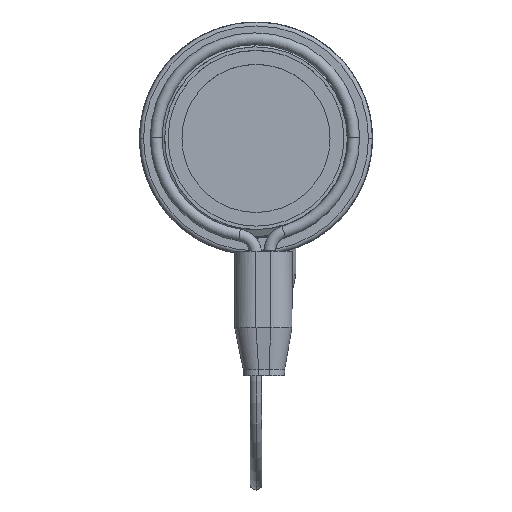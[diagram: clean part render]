
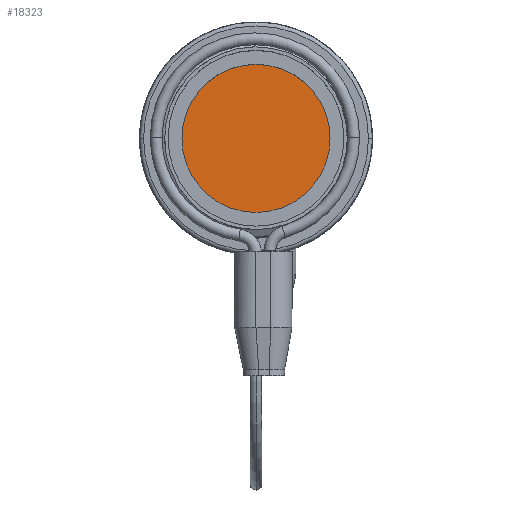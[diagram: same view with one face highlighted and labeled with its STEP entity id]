
A CAD part, top view. The second image highlights one B-rep face of the part: STEP entity #18323.
In plain terms, the highlighted planar face has unit normal (0, 0, 1) as drawn and (0, 0, -1) by its records, which use the part's own axes.
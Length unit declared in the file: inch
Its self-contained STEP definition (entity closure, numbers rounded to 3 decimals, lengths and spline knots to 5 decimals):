
#525 = PLANE ( 'NONE',  #22432 ) ;
#1049 = AXIS2_PLACEMENT_3D ( 'NONE', #39486, #14667, #25340 ) ;
#2475 = VERTEX_POINT ( 'NONE', #9517 ) ;
#3617 = VERTEX_POINT ( 'NONE', #43376 ) ;
#3892 = DIRECTION ( 'NONE',  ( -1., 0., 0. ) ) ;
#7088 = CIRCLE ( 'NONE', #32034, 0.375 ) ;
#9517 = CARTESIAN_POINT ( 'NONE',  ( 0.375, 0., -0.38 ) ) ;
#10922 = FACE_OUTER_BOUND ( 'NONE', #29943, .T. ) ;
#11380 = DIRECTION ( 'NONE',  ( -1., 0., 0. ) ) ;
#14667 = DIRECTION ( 'NONE',  ( 0., 0., -1. ) ) ;
#18090 = DIRECTION ( 'NONE',  ( 0., 0., -1. ) ) ;
#18323 = ADVANCED_FACE ( 'NONE', ( #10922 ), #525, .T. ) ;
#21433 = CIRCLE ( 'NONE', #1049, 0.375 ) ;
#22432 = AXIS2_PLACEMENT_3D ( 'NONE', #32938, #43502, #11380 ) ;
#23339 = ORIENTED_EDGE ( 'NONE', *, *, #25985, .T. ) ;
#25340 = DIRECTION ( 'NONE',  ( -1., 0., 0. ) ) ;
#25985 = EDGE_CURVE ( 'NONE', #3617, #2475, #21433, .T. ) ;
#29943 = EDGE_LOOP ( 'NONE', ( #23339, #41041 ) ) ;
#30212 = EDGE_CURVE ( 'NONE', #2475, #3617, #7088, .T. ) ;
#32034 = AXIS2_PLACEMENT_3D ( 'NONE', #43104, #18090, #3892 ) ;
#32938 = CARTESIAN_POINT ( 'NONE',  ( 0., 0.375, -0.38 ) ) ;
#39486 = CARTESIAN_POINT ( 'NONE',  ( 0., 0., -0.38 ) ) ;
#41041 = ORIENTED_EDGE ( 'NONE', *, *, #30212, .T. ) ;
#43104 = CARTESIAN_POINT ( 'NONE',  ( 0., 0., -0.38 ) ) ;
#43376 = CARTESIAN_POINT ( 'NONE',  ( -0.375, 0., -0.38 ) ) ;
#43502 = DIRECTION ( 'NONE',  ( 0., 0., -1. ) ) ;
